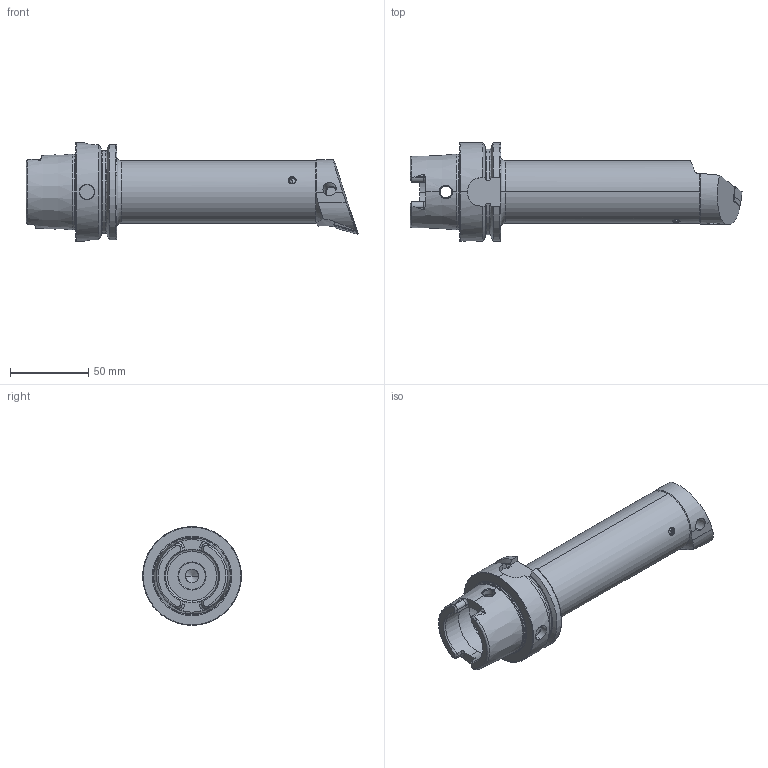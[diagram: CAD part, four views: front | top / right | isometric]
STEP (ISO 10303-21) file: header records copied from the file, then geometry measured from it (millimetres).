
FILE_DESCRIPTION (( 'STEP AP214' ), '1' );
FILE_NAME ('HA6.PDF.RQC.180.STEP', '2020-09-11T06:48:01', ( '' ), ( '' ), 'SwSTEP 2.0', 'SolidWorks 2017', '' );
FILE_SCHEMA (( 'AUTOMOTIVE_DESIGN' ));
Length unit declared in the file: millimetre
Products named in the file (8): WCD-ER4.101.017_A; WCD-ER1.101.000; WDF-ER3.101.000_A; DNMG150604; HA6-PDF.RQC.180_B; HA6.PDF.RQC.180; KVT_MB_600_050; WDF-ER2.101.003_A
Assembly tree (7 placements, depth 2):
  HA6.PDF.RQC.180
    HA6-PDF.RQC.180_B
    KVT_MB_600_050
    WDF-ER3.101.000_A
    WCD-ER4.101.017_A
    WCD-ER1.101.000
    WDF-ER2.101.003_A
    DNMG150604
Bounding box: 211.9 x 63 x 63 mm (x, y, z)
Volume: 249997.8 mm3; surface area: 47702.5 mm2
Topology: 8 solids, 8 shells, 372 faces, 950 edges, 582 vertices
Faces by surface type: plane 118, cylinder 103, cone 93, torus 40, bspline 16, sphere 2
Entity records: 14397 total; most frequent: CARTESIAN_POINT 4256, ORIENTED_EDGE 1866, DIRECTION 1753, EDGE_CURVE 933, AXIS2_PLACEMENT_3D 682, VERTEX_POINT 579, EDGE_LOOP 390, VECTOR 389
